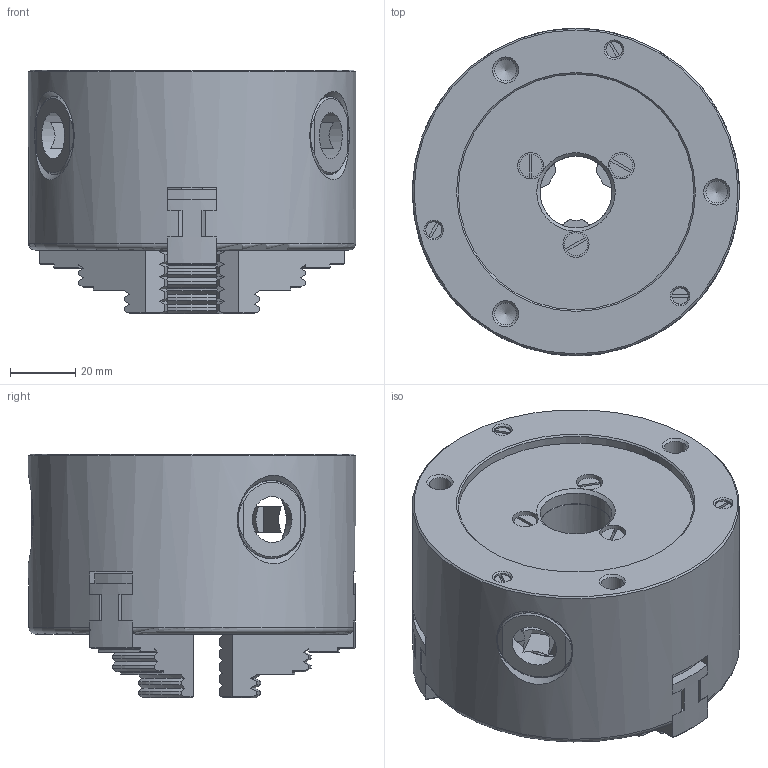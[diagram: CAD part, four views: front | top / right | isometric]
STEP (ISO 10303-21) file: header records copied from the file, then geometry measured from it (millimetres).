
FILE_DESCRIPTION(/* description */ (''),/* implementation_level */ '2;1');
FILE_NAME(/* name */ '',/* time_stamp */ '2025-02-19T09:32:41+03:00',/* author */ ('User'),/* organization */ (''),/* preprocessor_version */ 'ST-DEVELOPER v19.2',/* originating_system */ 'Autodesk Inventor 2024',/* authorisation */ '');
FILE_SCHEMA (('AUTOMOTIVE_DESIGN { 1 0 10303 214 3 1 1 }'));
Length unit declared in the file: millimetre
Products named in the file (3): Патрон 250; Патрон 250_1; Кулачок прям,
 250
Assembly tree (4 placements, depth 2):
  Патрон 250
    Патрон 250_1
    Кулачок прям,
 250  x3
Bounding box: 100 x 100 x 74.5 mm (x, y, z)
Volume: 407660.1 mm3; surface area: 67356.4 mm2
Topology: 4 solids, 4 shells, 472 faces, 1323 edges, 879 vertices
Faces by surface type: plane 229, cylinder 120, cone 120, torus 3
Full cylindrical faces by diameter (mm): 5 x3, 6.647 x3, 8 x3, 22 x2, 23.8 x3, 24 x3, 30 x1, 72 x1, 100 x1
Entity records: 8387 total; most frequent: CARTESIAN_POINT 1912, ORIENTED_EDGE 1388, DIRECTION 1328, EDGE_CURVE 694, AXIS2_PLACEMENT_3D 499, VERTEX_POINT 463, LINE 330, VECTOR 330
